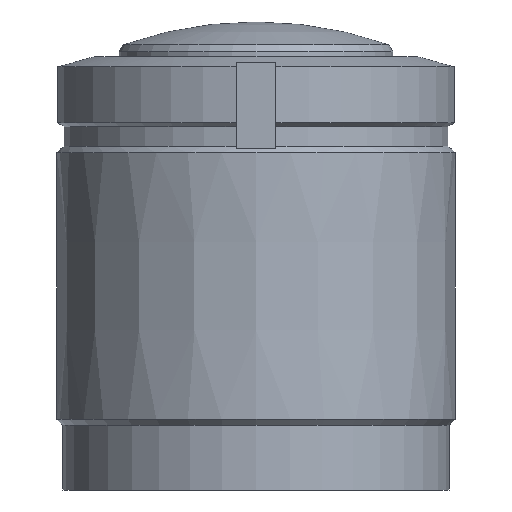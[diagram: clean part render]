
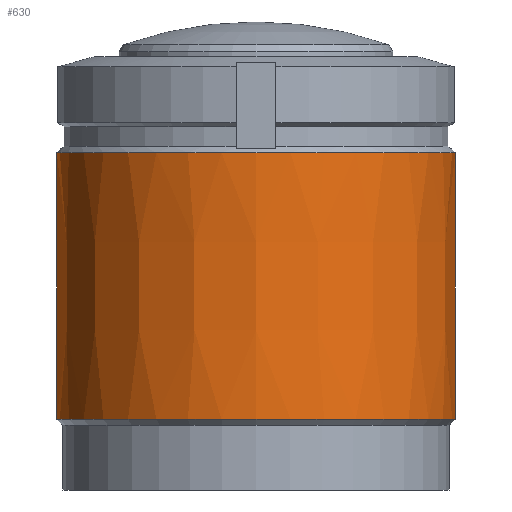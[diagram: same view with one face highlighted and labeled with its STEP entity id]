
A CAD part, front view. The second image highlights one B-rep face of the part: STEP entity #630.
In plain terms, the highlighted conical face has half-angle 0 degrees and reference radius 40 mm.
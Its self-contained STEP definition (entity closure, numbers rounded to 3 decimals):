
#567=CARTESIAN_POINT('',(-40.,0.0,-72.8));
#568=VERTEX_POINT('',#567);
#576=CARTESIAN_POINT('',(40.,0.0,-72.8));
#577=VERTEX_POINT('',#576);
#584=CARTESIAN_POINT('',(-0.0,0.0,-72.8));
#585=DIRECTION('',(0.0,0.0,1.0));
#586=DIRECTION('',(1.0,0.0,0.0));
#587=AXIS2_PLACEMENT_3D('',#584,#585,#586);
#588=CIRCLE('',#587,40.);
#589=EDGE_CURVE('no 1790',#568,#577,#588,.T.);
#599=CARTESIAN_POINT('',(40.,0.0,-19.25));
#600=VERTEX_POINT('',#599);
#601=CARTESIAN_POINT('',(40.,0.0,-19.25));
#602=DIRECTION('',(0.,0.0,-1.0));
#603=VECTOR('',#602,1.0);
#604=LINE('',#601,#603);
#605=EDGE_CURVE('no 1800',#600,#577,#604,.T.);
#606=ORIENTED_EDGE('',*,*,#605,.F.);
#607=CARTESIAN_POINT('',(-40.,0.0,-19.25));
#608=VERTEX_POINT('',#607);
#609=CARTESIAN_POINT('',(-0.0,0.0,-19.25));
#610=DIRECTION('',(0.0,0.0,1.0));
#611=DIRECTION('',(1.0,0.0,0.0));
#612=AXIS2_PLACEMENT_3D('',#609,#610,#611);
#613=CIRCLE('',#612,40.);
#614=EDGE_CURVE('no 1806',#608,#600,#613,.T.);
#615=ORIENTED_EDGE('',*,*,#614,.F.);
#616=CARTESIAN_POINT('',(-40.,0.0,-19.25));
#617=DIRECTION('',(0.,0.0,-1.0));
#618=VECTOR('',#617,1.0);
#619=LINE('',#616,#618);
#620=EDGE_CURVE('no 1810',#608,#568,#619,.T.);
#621=ORIENTED_EDGE('',*,*,#620,.T.);
#622=ORIENTED_EDGE('',*,*,#589,.T.);
#623=EDGE_LOOP('',(#606,#615,#621,#622));
#624=FACE_OUTER_BOUND('',#623,.T.);
#625=CARTESIAN_POINT('',(-0.0,0.0,-19.25));
#626=DIRECTION('',(0.0,0.0,-1.0));
#627=DIRECTION('',(-0.0,1.0,0.0));
#628=AXIS2_PLACEMENT_3D('',#625,#626,#627);
#629=CONICAL_SURFACE('',#628,40.,0.);
#630=ADVANCED_FACE('no 1793',(#624),#629,.T.);
